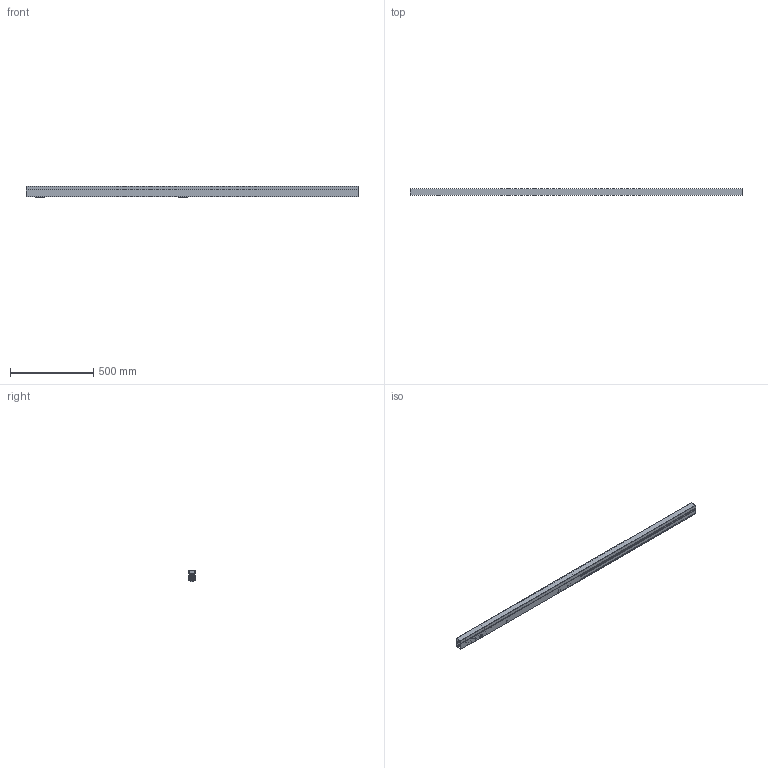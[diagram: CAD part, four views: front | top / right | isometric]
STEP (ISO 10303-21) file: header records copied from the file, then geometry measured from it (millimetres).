
FILE_DESCRIPTION(('STEP AP242'),'1');
FILE_NAME('OPO_65.084.01.stp','2026-02-23T17:27:38',(' '),(' '),'Spatial InterOp 3D',' ',' ');
FILE_SCHEMA(('AP242_MANAGED_MODEL_BASED_3D_ENGINEERING_MIM_LF {1 0 10303 442 1 1 4}'));
Length unit declared in the file: millimetre
Products named in the file (11): Zeichnung1; OPO_65.084.01_Magnetantrieb_Teil1; OPO_65.084.01_Magnetantrieb_Teil2; OPO_65.084.01_Magnetantrieb_Teil3; OPO_65.084.01_Magnetantrieb_Teil4; OPO_65.084.01_Magnetantrieb_Teil5; OPO_65.084.01_Magnetantrieb_Teil6; OPO_65.084.01_Magnetantrieb_Teil7; OPO_65.084.01_Magnetantrieb_Teil8; OPO_65.084.32; AutoCreatedBlock_10E
Assembly tree (11 placements, depth 2):
  Zeichnung1
    OPO_65.084.01_Magnetantrieb_Teil1
    OPO_65.084.01_Magnetantrieb_Teil2
    OPO_65.084.01_Magnetantrieb_Teil3
    OPO_65.084.01_Magnetantrieb_Teil4
    OPO_65.084.01_Magnetantrieb_Teil5  x2
    OPO_65.084.01_Magnetantrieb_Teil6
    OPO_65.084.01_Magnetantrieb_Teil7
    OPO_65.084.01_Magnetantrieb_Teil8
    OPO_65.084.32
    AutoCreatedBlock_10E
Bounding box: 2000 x 40 x 69.6 mm (x, y, z)
Volume: 1994812.3 mm3; surface area: 1123633.8 mm2
Topology: 54 solids, 54 shells, 1255 faces, 3309 edges, 2194 vertices
Faces by surface type: plane 772, cylinder 481, cone 2
Entity records: 46327 total; most frequent: CARTESIAN_POINT 6830, DIRECTION 6301, ORIENTED_EDGE 6158, EDGE_CURVE 3079, LINE 2155, VECTOR 2155, AXIS2_PLACEMENT_3D 2073, VERTEX_POINT 2042
